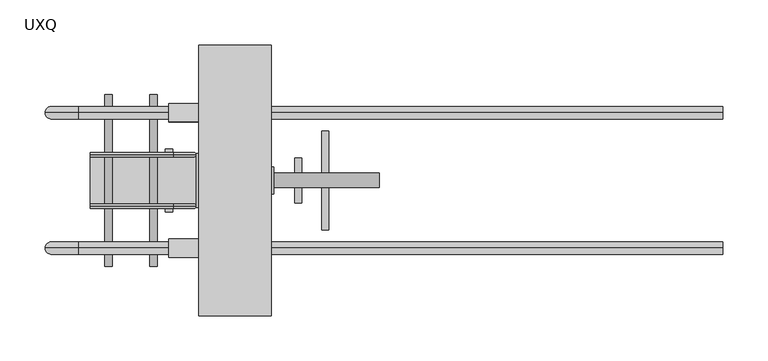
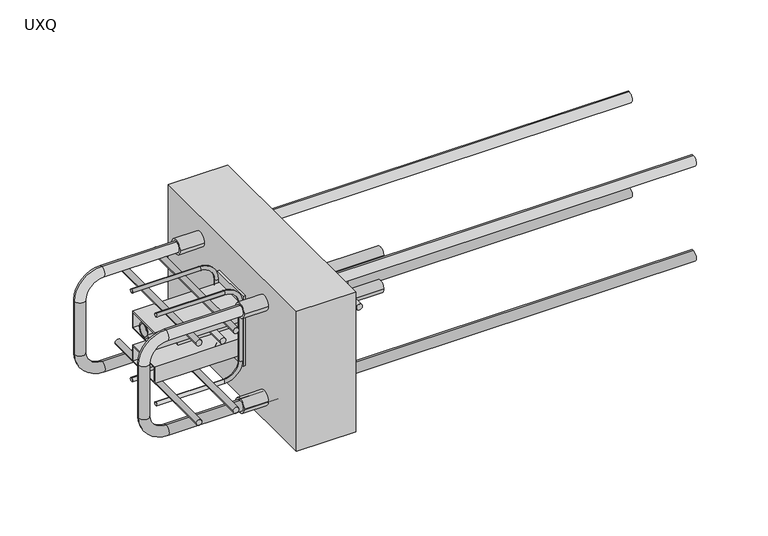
"""IFC4 building model written with IfcOpenShell, lengths in millimetres: proxy geometry, ACINOXplus_Typenreihe_UX : UXQ."""

from ifc_helpers import new_model, si_unit, point, frame, frame_2d, origin, place, context, project, spatial, polyline, circle_curve, ellipse_curve, trimmed, segment, composite_curve, outline, extrude, source, transform, mapped, element, save
from ifc_brep_helpers import plane_surface, cylinder_surface, revolved_surface, advanced_brep


def uxq_d90d2bab(model_context):
    return source(origin(), model_context, "Body", "SolidModel", [
        extrude(outline(composite_curve([segment(trimmed(circle_curve(frame_2d((-100.0, -73.0)), 4.0), [point((-100.0, -77.0))], [point((-100.0, -69.0))], False, "CARTESIAN"), True, "CONTINUOUS"), segment(trimmed(circle_curve(frame_2d((-100.0, -73.0)), 4.0), [point((-100.0, -69.0))], [point((-100.0, -77.0))], False, "CARTESIAN"), True, "CONTINUOUS")], self_intersect=False)), frame((0.0, -35.0, 0.0), z_axis=(0.0, 1.0, 0.0), x_axis=(0.0, 0.0, 1.0)), (0.0, 0.0, 1.0), 70.0),
        extrude(outline(composite_curve([segment(trimmed(circle_curve(frame_2d((-100.0, 70.0)), 4.0), [point((-100.0, 66.0))], [point((-100.0, 74.0))], False, "CARTESIAN"), True, "CONTINUOUS"), segment(trimmed(circle_curve(frame_2d((-100.0, 70.0)), 4.0), [point((-100.0, 74.0))], [point((-100.0, 66.0))], False, "CARTESIAN"), True, "CONTINUOUS")], self_intersect=False)), frame((0.0, -25.0, 0.0), z_axis=(0.0, 1.0, 0.0), x_axis=(0.0, 0.0, 1.0)), (0.0, 0.0, 1.0), 50.0),
        extrude(outline(composite_curve([segment(trimmed(circle_curve(frame_2d((-100.0, 100.0)), 4.0), [point((-100.0, 96.0))], [point((-100.0, 104.0))], False, "CARTESIAN"), True, "CONTINUOUS"), segment(trimmed(circle_curve(frame_2d((-100.0, 100.0)), 4.0), [point((-100.0, 104.0))], [point((-100.0, 96.0))], False, "CARTESIAN"), True, "CONTINUOUS")], self_intersect=False)), frame((0.0, -55.0, 0.0), z_axis=(0.0, 1.0, 0.0), x_axis=(0.0, 0.0, 1.0)), (0.0, 0.0, 1.0), 110.0),
        extrude(outline(composite_curve([segment(trimmed(circle_curve(frame_2d((0.0, -124.0)), 8.0), [point((8.0, -124.0))], [point((-8.0, -124.0))], False, "CARTESIAN"), True, "CONTINUOUS"), segment(trimmed(circle_curve(frame_2d((0.0, -124.0)), 8.0), [point((-8.0, -124.0))], [point((8.0, -124.0))], False, "CARTESIAN"), True, "CONTINUOUS")], self_intersect=False)), frame((-160.0, 0.0, 0.0), z_axis=(1.0, 0.0, 0.0), x_axis=(0.0, 1.0, 0.0)), (0.0, 0.0, 1.0), 320.0),
        extrude(outline(composite_curve([segment(trimmed(circle_curve(frame_2d((0.0, -76.0)), 8.0), [point((8.0, -76.0))], [point((-8.0, -76.0))], False, "CARTESIAN"), True, "CONTINUOUS"), segment(trimmed(circle_curve(frame_2d((0.0, -76.0)), 8.0), [point((-8.0, -76.0))], [point((8.0, -76.0))], False, "CARTESIAN"), True, "CONTINUOUS")], self_intersect=False)), frame((-160.0, 0.0, 0.0), z_axis=(1.0, 0.0, 0.0), x_axis=(0.0, 1.0, 0.0)), (0.0, 0.0, 1.0), 320.0),
        extrude(outline(polyline([(-26.0, -64.0), (26.0, -64.0), (26.0, -88.0), (-26.0, -88.0), (-26.0, -64.0)]), holes=[polyline([(-24.0, -66.0), (-24.0, -86.0), (24.0, -86.0), (24.0, -66.0), (-24.0, -66.0)])]), frame((-160.0, 0.0, 0.0), z_axis=(1.0, 0.0, 0.0), x_axis=(0.0, 1.0, 0.0)), (0.0, 0.0, 1.0), 117.0),
        extrude(outline(polyline([(-26.0, -112.0), (26.0, -112.0), (26.0, -136.0), (-26.0, -136.0), (-26.0, -112.0)]), holes=[polyline([(-24.0, -114.0), (-24.0, -134.0), (24.0, -134.0), (24.0, -114.0), (-24.0, -114.0)])]), frame((-160.0, 0.0, 0.0), z_axis=(1.0, 0.0, 0.0), x_axis=(0.0, 1.0, 0.0)), (0.0, 0.0, 1.0), 117.0),
        advanced_brep(
        [(-43.0, -30.0, -49.8262299), (-43.0, 30.0, -49.8262299), (-43.0, 30.0, -150.0), (-43.0, -30.0, -150.0), (-43.0, -10.0, -76.0), (-43.0, 10.0, -76.0), (-43.0, -10.0, -124.0), (-43.0, 10.0, -124.0), (-43.0, -8.0, -76.0), (-43.0, 8.0, -76.0), (-43.0, -8.0, -124.0), (-43.0, 8.0, -124.0), (-40.0, -30.0, -49.8262299), (-40.0, -30.0, -150.0), (-40.0, 30.0, -150.0), (-40.0, 30.0, -49.8262299), (-160.0, 10.0, -76.0), (-160.0, -10.0, -76.0), (-160.0, 8.0, -76.0), (-160.0, -8.0, -76.0), (-160.0, 10.0, -124.0), (-160.0, -10.0, -124.0), (-160.0, 8.0, -124.0), (-160.0, -8.0, -124.0)],
        [
            (0, 1),
            (1, 2),
            (2, 3),
            (3, 0),
            (4, 5, circle_curve(frame((-43.0, 0.0, -76.0), z_axis=(1.0, 0.0, 0.0), x_axis=(0.0, -1.0, 0.0)), 10.0)),
            (5, 4, circle_curve(frame((-43.0, 0.0, -76.0), z_axis=(1.0, 0.0, 0.0), x_axis=(0.0, -1.0, 0.0)), 10.0)),
            (6, 7, circle_curve(frame((-43.0, 0.0, -124.0), z_axis=(1.0, 0.0, 0.0), x_axis=(0.0, -1.0, 0.0)), 10.0)),
            (7, 6, circle_curve(frame((-43.0, 0.0, -124.0), z_axis=(1.0, 0.0, 0.0), x_axis=(0.0, -1.0, 0.0)), 10.0)),
            (8, 9, circle_curve(frame((-43.0, 0.0, -76.0), z_axis=(-1.0, 0.0, 0.0), x_axis=(0.0, -1.0, 0.0)), 8.0)),
            (9, 8, circle_curve(frame((-43.0, 0.0, -76.0), z_axis=(-1.0, 0.0, 0.0), x_axis=(0.0, -1.0, 0.0)), 8.0)),
            (10, 11, circle_curve(frame((-43.0, 0.0, -124.0), z_axis=(-1.0, 0.0, 0.0), x_axis=(0.0, -1.0, 0.0)), 8.0)),
            (11, 10, circle_curve(frame((-43.0, 0.0, -124.0), z_axis=(-1.0, 0.0, 0.0), x_axis=(0.0, -1.0, 0.0)), 8.0)),
            (12, 13),
            (13, 14),
            (14, 15),
            (15, 12),
            (0, 12),
            (15, 1),
            (14, 2),
            (13, 3),
            (16, 17, circle_curve(frame((-160.0, 0.0, -76.0), z_axis=(-1.0, 0.0, 0.0), x_axis=(0.0, -1.0, 0.0)), 10.0)),
            (17, 16, circle_curve(frame((-160.0, 0.0, -76.0), z_axis=(-1.0, 0.0, 0.0), x_axis=(0.0, -1.0, 0.0)), 10.0)),
            (18, 19, circle_curve(frame((-160.0, 0.0, -76.0), z_axis=(1.0, 0.0, 0.0), x_axis=(0.0, -1.0, 0.0)), 8.0)),
            (19, 18, circle_curve(frame((-160.0, 0.0, -76.0), z_axis=(1.0, 0.0, 0.0), x_axis=(0.0, -1.0, 0.0)), 8.0)),
            (20, 21, circle_curve(frame((-160.0, 0.0, -124.0), z_axis=(-1.0, 0.0, 0.0), x_axis=(0.0, -1.0, 0.0)), 10.0)),
            (21, 20, circle_curve(frame((-160.0, 0.0, -124.0), z_axis=(-1.0, 0.0, 0.0), x_axis=(0.0, -1.0, 0.0)), 10.0)),
            (22, 23, circle_curve(frame((-160.0, 0.0, -124.0), z_axis=(1.0, 0.0, 0.0), x_axis=(0.0, -1.0, 0.0)), 8.0)),
            (23, 22, circle_curve(frame((-160.0, 0.0, -124.0), z_axis=(1.0, 0.0, 0.0), x_axis=(0.0, -1.0, 0.0)), 8.0)),
            (18, 9),
            (8, 19),
            (22, 11),
            (10, 23),
            (16, 5),
            (4, 17),
            (20, 7),
            (6, 21),
        ],
        [
            plane_surface(frame((-43.0, 30.0, -49.8262299), z_axis=(-1.0, 0.0, 0.0), x_axis=(0.0, 1.0, 0.0))),
            plane_surface(frame((-40.0, 30.0, -49.8262299), z_axis=(1.0, 0.0, 0.0), x_axis=(0.0, -1.0, 0.0))),
            plane_surface(frame((-43.0, -30.0, -49.8262299), z_axis=(0.0, 0.0, 1.0), x_axis=(1.0, 0.0, 0.0))),
            plane_surface(frame((-43.0, 30.0, -49.8262299), z_axis=(0.0, 1.0, 0.0), x_axis=(1.0, 0.0, 0.0))),
            plane_surface(frame((-43.0, 30.0, -150.0), z_axis=(0.0, 0.0, -1.0), x_axis=(1.0, 0.0, 0.0))),
            plane_surface(frame((-43.0, -30.0, -150.0), z_axis=(0.0, -1.0, 0.0), x_axis=(1.0, 0.0, 0.0))),
            plane_surface(frame((-160.0, -8.0, -76.0), z_axis=(-1.0, 0.0, 0.0), x_axis=(0.0, 0.0, -1.0))),
            revolved_surface(polyline([(-43.0, -8.0, -76.0), (-160.0, -8.0, -76.0)]), (-43.0, 0.0, -76.0), (1.0, 0.0, 0.0)),
            revolved_surface(polyline([(-43.0, -8.0, -124.0), (-160.0, -8.0, -124.0)]), (0.0, 0.0, -124.0), (1.0, 0.0, 0.0)),
            cylinder_surface(frame((0.0, 0.0, -76.0), z_axis=(-1.0, 0.0, 0.0), x_axis=(0.0, -1.0, 0.0)), 10.0),
            cylinder_surface(frame((0.0, 0.0, -124.0), z_axis=(-1.0, 0.0, 0.0), x_axis=(0.0, -1.0, 0.0)), 10.0),
        ],
        [
            (0, [[1, 2, 3, 4], [5, 6], [7, 8]]),
            (0, [[9, 10]]),
            (0, [[11, 12]]),
            (1, [[13, 14, 15, 16]]),
            (2, [[-1, 17, -16, 18]]),
            (3, [[-2, -18, -15, 19]]),
            (4, [[-3, -19, -14, 20]]),
            (5, [[-4, -20, -13, -17]]),
            (6, [[21, 22], [23, 24]]),
            (6, [[25, 26], [27, 28]]),
            (7, [[-23, 29, -9, 30]]),
            (7, [[-24, -30, -10, -29]]),
            (8, [[-27, 31, -11, 32]]),
            (8, [[-28, -32, -12, -31]]),
            (9, [[-21, 33, -5, 34]]),
            (9, [[-22, -34, -6, -33]]),
            (10, [[-25, 35, -7, 36]]),
            (10, [[-26, -36, -8, -35]]),
        ],
    ),
        extrude(outline(composite_curve([segment(polyline([(15.0, -62.6944568), (15.0, -137.3055432)]), True, "CONTINUOUS"), segment(trimmed(circle_curve(frame_2d((0.0, -74.05999)), 65.0), [point((15.0, -137.3055432))], [point((-15.0, -137.3055432))], False, "CARTESIAN"), True, "CONTINUOUS"), segment(polyline([(-15.0, -137.3055432), (-15.0, -62.6944568)]), True, "CONTINUOUS"), segment(trimmed(circle_curve(frame_2d((0.0, -125.94001)), 65.0), [point((-15.0, -62.6944568))], [point((15.0, -62.6944568))], False, "CARTESIAN"), True, "CONTINUOUS")], self_intersect=False)), frame((40.0, 0.0, 0.0), z_axis=(1.0, 0.0, 0.0), x_axis=(0.0, 1.0, 0.0)), (0.0, 0.0, 1.0), 3.0254417),
        extrude(outline(polyline([(-115.0, 2.0), (115.0, 2.0), (115.0, -2.0), (-115.0, -2.0), (-115.0, 2.0)])), frame((0.0, 0.0, -124.0), z_axis=(0.0, 0.0, 1.0), x_axis=(1.0, 0.0, 0.0)), (0.0, 0.0, 1.0), 48.0),
        extrude(outline(composite_curve([segment(trimmed(circle_curve(frame_2d((-157.0, -90.0)), 4.0), [point((-157.0, -86.0))], [point((-157.0, -94.0))], False, "CARTESIAN"), True, "CONTINUOUS"), segment(trimmed(circle_curve(frame_2d((-157.0, -90.0)), 4.0), [point((-157.0, -94.0))], [point((-157.0, -86.0))], False, "CARTESIAN"), True, "CONTINUOUS")], self_intersect=False)), frame((0.0, -95.0, 0.0), z_axis=(0.0, 1.0, 0.0), x_axis=(0.0, 0.0, 1.0)), (0.0, 0.0, 1.0), 190.0),
        extrude(outline(composite_curve([segment(trimmed(circle_curve(frame_2d((-43.0, -90.0)), 4.0), [point((-43.0, -86.0))], [point((-43.0, -94.0))], False, "CARTESIAN"), True, "CONTINUOUS"), segment(trimmed(circle_curve(frame_2d((-43.0, -90.0)), 4.0), [point((-43.0, -94.0))], [point((-43.0, -86.0))], False, "CARTESIAN"), True, "CONTINUOUS")], self_intersect=False)), frame((0.0, -95.0, 0.0), z_axis=(0.0, 1.0, 0.0), x_axis=(0.0, 0.0, 1.0)), (0.0, 0.0, 1.0), 190.0),
        extrude(outline(composite_curve([segment(trimmed(circle_curve(frame_2d((-43.0, -140.0)), 4.0), [point((-43.0, -136.0))], [point((-43.0, -144.0))], False, "CARTESIAN"), True, "CONTINUOUS"), segment(trimmed(circle_curve(frame_2d((-43.0, -140.0)), 4.0), [point((-43.0, -144.0))], [point((-43.0, -136.0))], False, "CARTESIAN"), True, "CONTINUOUS")], self_intersect=False)), frame((0.0, -95.0, 0.0), z_axis=(0.0, 1.0, 0.0), x_axis=(0.0, 0.0, 1.0)), (0.0, 0.0, 1.0), 190.0),
        extrude(outline(composite_curve([segment(trimmed(circle_curve(frame_2d((-157.0, -140.0)), 4.0), [point((-157.0, -136.0))], [point((-157.0, -144.0))], False, "CARTESIAN"), True, "CONTINUOUS"), segment(trimmed(circle_curve(frame_2d((-157.0, -140.0)), 4.0), [point((-157.0, -144.0))], [point((-157.0, -136.0))], False, "CARTESIAN"), True, "CONTINUOUS")], self_intersect=False)), frame((0.0, -95.0, 0.0), z_axis=(0.0, 1.0, 0.0), x_axis=(0.0, 0.0, 1.0)), (0.0, 0.0, 1.0), 190.0),
        extrude(outline(polyline([(40.0, 150.0), (40.0, -150.0), (-40.0, -150.0), (-40.0, 150.0), (40.0, 150.0)])), frame((0.0, 0.0, -200.0), z_axis=(0.0, 0.0, 1.0), x_axis=(1.0, 0.0, 0.0)), (0.0, 0.0, 1.0), 200.0),
        advanced_brep(
        [(540.0, 75.0, -25.0), (540.0, 75.0, -39.0), (-173.0, 75.0, -25.0), (-173.0, 75.0, -39.0), (-196.0, 75.0, -62.0), (-210.0, 75.0, -62.0), (-210.0, 75.0, -138.0), (-196.0, 75.0, -138.0), (-173.0, 75.0, -161.0), (-173.0, 75.0, -175.0), (540.0, 75.0, -175.0), (540.0, 75.0, -161.0)],
        [
            (0, 1, circle_curve(frame((540.0, 75.0, -32.0), z_axis=(1.0, 0.0, 0.0), x_axis=(0.0, 0.0, -1.0)), 7.0)),
            (1, 0, circle_curve(frame((540.0, 75.0, -32.0), z_axis=(1.0, 0.0, 0.0), x_axis=(0.0, 0.0, -1.0)), 7.0)),
            (0, 2),
            (2, 3, circle_curve(frame((-173.0, 75.0, -32.0), z_axis=(1.0, 0.0, 0.0), x_axis=(0.0, 0.0, -1.0)), 7.0)),
            (3, 1),
            (3, 2, circle_curve(frame((-173.0, 75.0, -32.0), z_axis=(1.0, 0.0, 0.0), x_axis=(0.0, 0.0, -1.0)), 7.0)),
            (4, 3, circle_curve(frame((-173.0, 75.0, -62.0), z_axis=(0.0, 1.0, 0.0), x_axis=(0.0, 0.0, 1.0)), 23.0)),
            (2, 5, circle_curve(frame((-173.0, 75.0, -62.0), z_axis=(0.0, -1.0, 0.0), x_axis=(0.0, 0.0, 1.0)), 37.0)),
            (5, 4, circle_curve(frame((-203.0, 75.0, -62.0), z_axis=(0.0, 0.0, 1.0), x_axis=(1.0, 0.0, 0.0)), 7.0)),
            (4, 5, circle_curve(frame((-203.0, 75.0, -62.0), z_axis=(0.0, 0.0, 1.0), x_axis=(1.0, 0.0, 0.0)), 7.0)),
            (5, 6),
            (6, 7, circle_curve(frame((-203.0, 75.0, -138.0), z_axis=(0.0, 0.0, 1.0), x_axis=(1.0, 0.0, 0.0)), 7.0)),
            (7, 4),
            (7, 6, circle_curve(frame((-203.0, 75.0, -138.0), z_axis=(0.0, 0.0, 1.0), x_axis=(1.0, 0.0, 0.0)), 7.0)),
            (8, 7, circle_curve(frame((-173.0, 75.0, -138.0), z_axis=(0.0, 1.0, 0.0), x_axis=(-1.0, 0.0, 0.0)), 23.0)),
            (6, 9, circle_curve(frame((-173.0, 75.0, -138.0), z_axis=(0.0, -1.0, 0.0), x_axis=(-1.0, 0.0, 0.0)), 37.0)),
            (9, 8, circle_curve(frame((-173.0, 75.0, -168.0), z_axis=(-1.0, 0.0, 0.0), x_axis=(0.0, 0.0, 1.0)), 7.0)),
            (8, 9, circle_curve(frame((-173.0, 75.0, -168.0), z_axis=(-1.0, 0.0, 0.0), x_axis=(0.0, 0.0, 1.0)), 7.0)),
            (10, 11, circle_curve(frame((540.0, 75.0, -168.0), z_axis=(1.0, 0.0, 0.0), x_axis=(0.0, 0.0, 1.0)), 7.0)),
            (11, 10, circle_curve(frame((540.0, 75.0, -168.0), z_axis=(1.0, 0.0, 0.0), x_axis=(0.0, 0.0, 1.0)), 7.0)),
            (9, 10),
            (11, 8),
        ],
        [
            plane_surface(frame((540.0, 75.0, -32.0), z_axis=(1.0, 0.0, 0.0), x_axis=(0.0, -1.0, 0.0))),
            cylinder_surface(frame((540.0, 75.0, -32.0), z_axis=(1.0, 0.0, 0.0), x_axis=(0.0, 0.0, -1.0)), 7.0),
            revolved_surface(trimmed(ellipse_curve(frame((-173.0, 75.0, -32.0), z_axis=(1.0, 0.0, 0.0), x_axis=(0.0, 0.0, -1.0)), 7.0, 7.0), [point((-173.0, 75.0, -25.0))], [point((-173.0, 75.0, -39.0))], True, "CARTESIAN"), (-173.0, 75.0, -62.0), (0.0, -1.0, 0.0)),
            revolved_surface(trimmed(ellipse_curve(frame((-173.0, 75.0, -32.0), z_axis=(1.0, 0.0, 0.0), x_axis=(0.0, 0.0, -1.0)), 7.0, 7.0), [point((-173.0, 75.0, -39.0))], [point((-173.0, 75.0, -25.0))], True, "CARTESIAN"), (-173.0, 75.0, -62.0), (0.0, -1.0, 0.0)),
            cylinder_surface(frame((-203.0, 75.0, -62.0), z_axis=(0.0, 0.0, 1.0), x_axis=(1.0, 0.0, 0.0)), 7.0),
            revolved_surface(trimmed(ellipse_curve(frame((-203.0, 75.0, -138.0), z_axis=(0.0, 0.0, 1.0), x_axis=(1.0, 0.0, 0.0)), 7.0, 7.0), [point((-210.0, 75.0, -138.0))], [point((-196.0, 75.0, -138.0))], True, "CARTESIAN"), (-173.0, 75.0, -138.0), (0.0, -1.0, 0.0)),
            revolved_surface(trimmed(ellipse_curve(frame((-203.0, 75.0, -138.0), z_axis=(0.0, 0.0, 1.0), x_axis=(1.0, 0.0, 0.0)), 7.0, 7.0), [point((-196.0, 75.0, -138.0))], [point((-210.0, 75.0, -138.0))], True, "CARTESIAN"), (-173.0, 75.0, -138.0), (0.0, -1.0, 0.0)),
            plane_surface(frame((540.0, 75.0, -168.0), z_axis=(1.0, 0.0, 0.0), x_axis=(0.0, -1.0, 0.0))),
            cylinder_surface(frame((-173.0, 75.0, -168.0), z_axis=(-1.0, 0.0, 0.0), x_axis=(0.0, 0.0, 1.0)), 7.0),
        ],
        [
            (0, [[1, 2]]),
            (1, [[-1, 3, 4, 5]]),
            (1, [[-2, -5, 6, -3]]),
            (2, [[7, -4, 8, 9]]),
            (3, [[-8, -6, -7, 10]]),
            (4, [[-9, 11, 12, 13]]),
            (4, [[-10, -13, 14, -11]]),
            (5, [[15, -12, 16, 17]]),
            (6, [[-16, -14, -15, 18]]),
            (7, [[19, 20]]),
            (8, [[-17, 21, -20, 22]]),
            (8, [[-18, -22, -19, -21]]),
        ],
    ),
        advanced_brep(
        [(540.0, -75.0, -25.0), (540.0, -75.0, -39.0), (-173.0, -75.0, -25.0), (-173.0, -75.0, -39.0), (-196.0, -75.0, -62.0), (-210.0, -75.0, -62.0), (-210.0, -75.0, -138.0), (-196.0, -75.0, -138.0), (-173.0, -75.0, -161.0), (-173.0, -75.0, -175.0), (540.0, -75.0, -175.0), (540.0, -75.0, -161.0)],
        [
            (0, 1, circle_curve(frame((540.0, -75.0, -32.0), z_axis=(1.0, 0.0, 0.0), x_axis=(0.0, 0.0, -1.0)), 7.0)),
            (1, 0, circle_curve(frame((540.0, -75.0, -32.0), z_axis=(1.0, 0.0, 0.0), x_axis=(0.0, 0.0, -1.0)), 7.0)),
            (0, 2),
            (2, 3, circle_curve(frame((-173.0, -75.0, -32.0), z_axis=(1.0, 0.0, 0.0), x_axis=(0.0, 0.0, -1.0)), 7.0)),
            (3, 1),
            (3, 2, circle_curve(frame((-173.0, -75.0, -32.0), z_axis=(1.0, 0.0, 0.0), x_axis=(0.0, 0.0, -1.0)), 7.0)),
            (4, 3, circle_curve(frame((-173.0, -75.0, -62.0), z_axis=(0.0, 1.0, 0.0), x_axis=(0.0, 0.0, 1.0)), 23.0)),
            (2, 5, circle_curve(frame((-173.0, -75.0, -62.0), z_axis=(0.0, -1.0, 0.0), x_axis=(0.0, 0.0, 1.0)), 37.0)),
            (5, 4, circle_curve(frame((-203.0, -75.0, -62.0), z_axis=(0.0, 0.0, 1.0), x_axis=(1.0, 0.0, 0.0)), 7.0)),
            (4, 5, circle_curve(frame((-203.0, -75.0, -62.0), z_axis=(0.0, 0.0, 1.0), x_axis=(1.0, 0.0, 0.0)), 7.0)),
            (5, 6),
            (6, 7, circle_curve(frame((-203.0, -75.0, -138.0), z_axis=(0.0, 0.0, 1.0), x_axis=(1.0, 0.0, 0.0)), 7.0)),
            (7, 4),
            (7, 6, circle_curve(frame((-203.0, -75.0, -138.0), z_axis=(0.0, 0.0, 1.0), x_axis=(1.0, 0.0, 0.0)), 7.0)),
            (8, 7, circle_curve(frame((-173.0, -75.0, -138.0), z_axis=(0.0, 1.0, 0.0), x_axis=(-1.0, 0.0, 0.0)), 23.0)),
            (6, 9, circle_curve(frame((-173.0, -75.0, -138.0), z_axis=(0.0, -1.0, 0.0), x_axis=(-1.0, 0.0, 0.0)), 37.0)),
            (9, 8, circle_curve(frame((-173.0, -75.0, -168.0), z_axis=(-1.0, 0.0, 0.0), x_axis=(0.0, 0.0, 1.0)), 7.0)),
            (8, 9, circle_curve(frame((-173.0, -75.0, -168.0), z_axis=(-1.0, 0.0, 0.0), x_axis=(0.0, 0.0, 1.0)), 7.0)),
            (10, 11, circle_curve(frame((540.0, -75.0, -168.0), z_axis=(1.0, 0.0, 0.0), x_axis=(0.0, 0.0, 1.0)), 7.0)),
            (11, 10, circle_curve(frame((540.0, -75.0, -168.0), z_axis=(1.0, 0.0, 0.0), x_axis=(0.0, 0.0, 1.0)), 7.0)),
            (9, 10),
            (11, 8),
        ],
        [
            plane_surface(frame((540.0, -75.0, -32.0), z_axis=(1.0, 0.0, 0.0), x_axis=(0.0, -1.0, 0.0))),
            cylinder_surface(frame((540.0, -75.0, -32.0), z_axis=(1.0, 0.0, 0.0), x_axis=(0.0, 0.0, -1.0)), 7.0),
            revolved_surface(trimmed(ellipse_curve(frame((-173.0, -75.0, -32.0), z_axis=(1.0, 0.0, 0.0), x_axis=(0.0, 0.0, -1.0)), 7.0, 7.0), [point((-173.0, -75.0, -25.0))], [point((-173.0, -75.0, -39.0))], True, "CARTESIAN"), (-173.0, -75.0, -62.0), (0.0, -1.0, 0.0)),
            revolved_surface(trimmed(ellipse_curve(frame((-173.0, -75.0, -32.0), z_axis=(1.0, 0.0, 0.0), x_axis=(0.0, 0.0, -1.0)), 7.0, 7.0), [point((-173.0, -75.0, -39.0))], [point((-173.0, -75.0, -25.0))], True, "CARTESIAN"), (-173.0, -75.0, -62.0), (0.0, -1.0, 0.0)),
            cylinder_surface(frame((-203.0, -75.0, -62.0), z_axis=(0.0, 0.0, 1.0), x_axis=(1.0, 0.0, 0.0)), 7.0),
            revolved_surface(trimmed(ellipse_curve(frame((-203.0, -75.0, -138.0), z_axis=(0.0, 0.0, 1.0), x_axis=(1.0, 0.0, 0.0)), 7.0, 7.0), [point((-210.0, -75.0, -138.0))], [point((-196.0, -75.0, -138.0))], True, "CARTESIAN"), (-173.0, -75.0, -138.0), (0.0, -1.0, 0.0)),
            revolved_surface(trimmed(ellipse_curve(frame((-203.0, -75.0, -138.0), z_axis=(0.0, 0.0, 1.0), x_axis=(1.0, 0.0, 0.0)), 7.0, 7.0), [point((-196.0, -75.0, -138.0))], [point((-210.0, -75.0, -138.0))], True, "CARTESIAN"), (-173.0, -75.0, -138.0), (0.0, -1.0, 0.0)),
            plane_surface(frame((540.0, -75.0, -168.0), z_axis=(1.0, 0.0, 0.0), x_axis=(0.0, -1.0, 0.0))),
            cylinder_surface(frame((-173.0, -75.0, -168.0), z_axis=(-1.0, 0.0, 0.0), x_axis=(0.0, 0.0, 1.0)), 7.0),
        ],
        [
            (0, [[1, 2]]),
            (1, [[-1, 3, 4, 5]]),
            (1, [[-2, -5, 6, -3]]),
            (2, [[7, -4, 8, 9]]),
            (3, [[-8, -6, -7, 10]]),
            (4, [[-9, 11, 12, 13]]),
            (4, [[-10, -13, 14, -11]]),
            (5, [[15, -12, 16, 17]]),
            (6, [[-16, -14, -15, 18]]),
            (7, [[19, 20]]),
            (8, [[-17, 21, -20, 22]]),
            (8, [[-18, -22, -19, -21]]),
        ],
    ),
        extrude(outline(composite_curve([segment(trimmed(circle_curve(frame_2d((75.0, -168.0)), 10.0), [point((65.0, -168.0))], [point((85.0, -168.0))], False, "CARTESIAN"), True, "CONTINUOUS"), segment(trimmed(circle_curve(frame_2d((75.0, -168.0)), 10.0), [point((85.0, -168.0))], [point((65.0, -168.0))], False, "CARTESIAN"), True, "CONTINUOUS")], self_intersect=False), holes=[composite_curve([segment(trimmed(circle_curve(frame_2d((75.0, -168.0)), 7.0), [point((68.0, -168.0))], [point((82.0, -168.0))], True, "CARTESIAN"), True, "CONTINUOUS"), segment(trimmed(circle_curve(frame_2d((75.0, -168.0)), 7.0), [point((82.0, -168.0))], [point((68.0, -168.0))], True, "CARTESIAN"), True, "CONTINUOUS")], self_intersect=False)]), frame((-73.0, 0.0, 0.0), z_axis=(1.0, 0.0, 0.0), x_axis=(0.0, 1.0, 0.0)), (0.0, 0.0, 1.0), 33.0),
        extrude(outline(composite_curve([segment(trimmed(circle_curve(frame_2d((-75.0, -168.0)), 10.0), [point((-85.0, -168.0))], [point((-65.0, -168.0))], False, "CARTESIAN"), True, "CONTINUOUS"), segment(trimmed(circle_curve(frame_2d((-75.0, -168.0)), 10.0), [point((-65.0, -168.0))], [point((-85.0, -168.0))], False, "CARTESIAN"), True, "CONTINUOUS")], self_intersect=False), holes=[composite_curve([segment(trimmed(circle_curve(frame_2d((-75.0, -168.0)), 7.0), [point((-82.0, -168.0))], [point((-68.0, -168.0))], True, "CARTESIAN"), True, "CONTINUOUS"), segment(trimmed(circle_curve(frame_2d((-75.0, -168.0)), 7.0), [point((-68.0, -168.0))], [point((-82.0, -168.0))], True, "CARTESIAN"), True, "CONTINUOUS")], self_intersect=False)]), frame((-73.0, 0.0, 0.0), z_axis=(1.0, 0.0, 0.0), x_axis=(0.0, 1.0, 0.0)), (0.0, 0.0, 1.0), 33.0),
        extrude(outline(composite_curve([segment(trimmed(circle_curve(frame_2d((-75.0, -32.0)), 10.0), [point((-85.0, -32.0))], [point((-65.0, -32.0))], False, "CARTESIAN"), True, "CONTINUOUS"), segment(trimmed(circle_curve(frame_2d((-75.0, -32.0)), 10.0), [point((-65.0, -32.0))], [point((-85.0, -32.0))], False, "CARTESIAN"), True, "CONTINUOUS")], self_intersect=False), holes=[composite_curve([segment(trimmed(circle_curve(frame_2d((-75.0, -32.0)), 7.0), [point((-82.0, -32.0))], [point((-68.0, -32.0))], True, "CARTESIAN"), True, "CONTINUOUS"), segment(trimmed(circle_curve(frame_2d((-75.0, -32.0)), 7.0), [point((-68.0, -32.0))], [point((-82.0, -32.0))], True, "CARTESIAN"), True, "CONTINUOUS")], self_intersect=False)]), frame((-73.0, 0.0, 0.0), z_axis=(1.0, 0.0, 0.0), x_axis=(0.0, 1.0, 0.0)), (0.0, 0.0, 1.0), 33.0),
        extrude(outline(composite_curve([segment(trimmed(circle_curve(frame_2d((75.0, -32.0)), 10.0), [point((65.0, -32.0))], [point((85.0, -32.0))], False, "CARTESIAN"), True, "CONTINUOUS"), segment(trimmed(circle_curve(frame_2d((75.0, -32.0)), 10.0), [point((85.0, -32.0))], [point((65.0, -32.0))], False, "CARTESIAN"), True, "CONTINUOUS")], self_intersect=False), holes=[composite_curve([segment(trimmed(circle_curve(frame_2d((75.0, -32.0)), 7.0), [point((68.0, -32.0))], [point((82.0, -32.0))], True, "CARTESIAN"), True, "CONTINUOUS"), segment(trimmed(circle_curve(frame_2d((75.0, -32.0)), 7.0), [point((82.0, -32.0))], [point((68.0, -32.0))], True, "CARTESIAN"), True, "CONTINUOUS")], self_intersect=False)]), frame((-73.0, 0.0, 0.0), z_axis=(1.0, 0.0, 0.0), x_axis=(0.0, 1.0, 0.0)), (0.0, 0.0, 1.0), 33.0),
        advanced_brep(
        [(-160.0, -28.5, -34.0), (-160.0, -28.5, -39.0), (-160.0, -28.5, -166.0), (-160.0, -28.5, -161.0), (-68.0, -28.5, -34.0), (-68.0, -28.5, -39.0), (-48.0, -28.5, -59.0), (-43.0, -28.5, -59.0), (-43.0, -28.5, -141.0), (-48.0, -28.5, -141.0), (-68.0, -28.5, -161.0), (-68.0, -28.5, -166.0)],
        [
            (0, 1, circle_curve(frame((-160.0, -28.5, -36.5), z_axis=(-1.0, 0.0, 0.0), x_axis=(0.0, 0.0, -1.0)), 2.5)),
            (1, 0, circle_curve(frame((-160.0, -28.5, -36.5), z_axis=(-1.0, 0.0, 0.0), x_axis=(0.0, 0.0, -1.0)), 2.5)),
            (2, 3, circle_curve(frame((-160.0, -28.5, -163.5), z_axis=(-1.0, 0.0, 0.0), x_axis=(0.0, 0.0, 1.0)), 2.5)),
            (3, 2, circle_curve(frame((-160.0, -28.5, -163.5), z_axis=(-1.0, 0.0, 0.0), x_axis=(0.0, 0.0, 1.0)), 2.5)),
            (0, 4),
            (4, 5, circle_curve(frame((-68.0, -28.5, -36.5), z_axis=(-1.0, 0.0, 0.0), x_axis=(0.0, 0.0, -1.0)), 2.5)),
            (5, 1),
            (5, 4, circle_curve(frame((-68.0, -28.5, -36.5), z_axis=(-1.0, 0.0, 0.0), x_axis=(0.0, 0.0, -1.0)), 2.5)),
            (6, 5, circle_curve(frame((-68.0, -28.5, -59.0), z_axis=(0.0, -1.0, 0.0), x_axis=(0.0, 0.0, 1.0)), 20.0)),
            (4, 7, circle_curve(frame((-68.0, -28.5, -59.0), z_axis=(0.0, 1.0, 0.0), x_axis=(0.0, 0.0, 1.0)), 25.0)),
            (7, 6, circle_curve(frame((-45.5, -28.5, -59.0), z_axis=(0.0, 0.0, 1.0), x_axis=(-1.0, 0.0, 0.0)), 2.5)),
            (6, 7, circle_curve(frame((-45.5, -28.5, -59.0), z_axis=(0.0, 0.0, 1.0), x_axis=(-1.0, 0.0, 0.0)), 2.5)),
            (7, 8),
            (8, 9, circle_curve(frame((-45.5, -28.5, -141.0), z_axis=(0.0, 0.0, 1.0), x_axis=(-1.0, 0.0, 0.0)), 2.5)),
            (9, 6),
            (9, 8, circle_curve(frame((-45.5, -28.5, -141.0), z_axis=(0.0, 0.0, 1.0), x_axis=(-1.0, 0.0, 0.0)), 2.5)),
            (10, 9, circle_curve(frame((-68.0, -28.5, -141.0), z_axis=(0.0, -1.0, 0.0), x_axis=(1.0, 0.0, 0.0)), 20.0)),
            (8, 11, circle_curve(frame((-68.0, -28.5, -141.0), z_axis=(0.0, 1.0, 0.0), x_axis=(1.0, 0.0, 0.0)), 25.0)),
            (11, 10, circle_curve(frame((-68.0, -28.5, -163.5), z_axis=(1.0, 0.0, 0.0), x_axis=(0.0, 0.0, 1.0)), 2.5)),
            (10, 11, circle_curve(frame((-68.0, -28.5, -163.5), z_axis=(1.0, 0.0, 0.0), x_axis=(0.0, 0.0, 1.0)), 2.5)),
            (11, 2),
            (3, 10),
        ],
        [
            plane_surface(frame((-160.0, -28.5, -39.0), z_axis=(-1.0, 0.0, 0.0), x_axis=(0.0, 1.0, 0.0))),
            plane_surface(frame((-160.0, -28.5, -161.0), z_axis=(-1.0, 0.0, 0.0), x_axis=(0.0, 1.0, 0.0))),
            cylinder_surface(frame((-160.0, -28.5, -36.5), z_axis=(-1.0, 0.0, 0.0), x_axis=(0.0, 0.0, -1.0)), 2.5),
            revolved_surface(trimmed(ellipse_curve(frame((-68.0, -28.5, -36.5), z_axis=(-1.0, 0.0, 0.0), x_axis=(0.0, 0.0, -1.0)), 2.5, 2.5), [point((-68.0, -28.5, -34.0))], [point((-68.0, -28.5, -39.0))], True, "CARTESIAN"), (-68.0, -28.5, -59.0), (0.0, 1.0, 0.0)),
            revolved_surface(trimmed(ellipse_curve(frame((-68.0, -28.5, -36.5), z_axis=(-1.0, 0.0, 0.0), x_axis=(0.0, 0.0, -1.0)), 2.5, 2.5), [point((-68.0, -28.5, -39.0))], [point((-68.0, -28.5, -34.0))], True, "CARTESIAN"), (-68.0, -28.5, -59.0), (0.0, 1.0, 0.0)),
            cylinder_surface(frame((-45.5, -28.5, -59.0), z_axis=(0.0, 0.0, 1.0), x_axis=(-1.0, 0.0, 0.0)), 2.5),
            revolved_surface(trimmed(ellipse_curve(frame((-45.5, -28.5, -141.0), z_axis=(0.0, 0.0, 1.0), x_axis=(-1.0, 0.0, 0.0)), 2.5, 2.5), [point((-43.0, -28.5, -141.0))], [point((-48.0, -28.5, -141.0))], True, "CARTESIAN"), (-68.0, -28.5, -141.0), (0.0, 1.0, 0.0)),
            revolved_surface(trimmed(ellipse_curve(frame((-45.5, -28.5, -141.0), z_axis=(0.0, 0.0, 1.0), x_axis=(-1.0, 0.0, 0.0)), 2.5, 2.5), [point((-48.0, -28.5, -141.0))], [point((-43.0, -28.5, -141.0))], True, "CARTESIAN"), (-68.0, -28.5, -141.0), (0.0, 1.0, 0.0)),
            cylinder_surface(frame((-68.0, -28.5, -163.5), z_axis=(1.0, 0.0, 0.0), x_axis=(0.0, 0.0, 1.0)), 2.5),
        ],
        [
            (0, [[1, 2]]),
            (1, [[3, 4]]),
            (2, [[-1, 5, 6, 7]]),
            (2, [[-2, -7, 8, -5]]),
            (3, [[9, -6, 10, 11]]),
            (4, [[-10, -8, -9, 12]]),
            (5, [[-11, 13, 14, 15]]),
            (5, [[-12, -15, 16, -13]]),
            (6, [[17, -14, 18, 19]]),
            (7, [[-18, -16, -17, 20]]),
            (8, [[-19, 21, -4, 22]]),
            (8, [[-20, -22, -3, -21]]),
        ],
    ),
        advanced_brep(
        [(-160.0, 28.5, -34.0), (-160.0, 28.5, -39.0), (-68.0, 28.5, -34.0), (-68.0, 28.5, -39.0), (-48.0, 28.5, -59.0), (-43.0, 28.5, -59.0), (-43.0, 28.5, -141.0), (-48.0, 28.5, -141.0), (-68.0, 28.5, -161.0), (-68.0, 28.5, -166.0), (-160.0, 28.5, -166.0), (-160.0, 28.5, -161.0)],
        [
            (0, 1, circle_curve(frame((-160.0, 28.5, -36.5), z_axis=(-1.0, 0.0, 0.0), x_axis=(0.0, 0.0, -1.0)), 2.5)),
            (1, 0, circle_curve(frame((-160.0, 28.5, -36.5), z_axis=(-1.0, 0.0, 0.0), x_axis=(0.0, 0.0, -1.0)), 2.5)),
            (0, 2),
            (2, 3, circle_curve(frame((-68.0, 28.5, -36.5), z_axis=(-1.0, 0.0, 0.0), x_axis=(0.0, 0.0, -1.0)), 2.5)),
            (3, 1),
            (3, 2, circle_curve(frame((-68.0, 28.5, -36.5), z_axis=(-1.0, 0.0, 0.0), x_axis=(0.0, 0.0, -1.0)), 2.5)),
            (4, 3, circle_curve(frame((-68.0, 28.5, -59.0), z_axis=(0.0, -1.0, 0.0), x_axis=(0.0, 0.0, 1.0)), 20.0)),
            (2, 5, circle_curve(frame((-68.0, 28.5, -59.0), z_axis=(0.0, 1.0, 0.0), x_axis=(0.0, 0.0, 1.0)), 25.0)),
            (5, 4, circle_curve(frame((-45.5, 28.5, -59.0), z_axis=(0.0, 0.0, 1.0), x_axis=(-1.0, 0.0, 0.0)), 2.5)),
            (4, 5, circle_curve(frame((-45.5, 28.5, -59.0), z_axis=(0.0, 0.0, 1.0), x_axis=(-1.0, 0.0, 0.0)), 2.5)),
            (5, 6),
            (6, 7, circle_curve(frame((-45.5, 28.5, -141.0), z_axis=(0.0, 0.0, 1.0), x_axis=(-1.0, 0.0, 0.0)), 2.5)),
            (7, 4),
            (7, 6, circle_curve(frame((-45.5, 28.5, -141.0), z_axis=(0.0, 0.0, 1.0), x_axis=(-1.0, 0.0, 0.0)), 2.5)),
            (8, 7, circle_curve(frame((-68.0, 28.5, -141.0), z_axis=(0.0, -1.0, 0.0), x_axis=(1.0, 0.0, 0.0)), 20.0)),
            (6, 9, circle_curve(frame((-68.0, 28.5, -141.0), z_axis=(0.0, 1.0, 0.0), x_axis=(1.0, 0.0, 0.0)), 25.0)),
            (9, 8, circle_curve(frame((-68.0, 28.5, -163.5), z_axis=(1.0, 0.0, 0.0), x_axis=(0.0, 0.0, 1.0)), 2.5)),
            (8, 9, circle_curve(frame((-68.0, 28.5, -163.5), z_axis=(1.0, 0.0, 0.0), x_axis=(0.0, 0.0, 1.0)), 2.5)),
            (10, 11, circle_curve(frame((-160.0, 28.5, -163.5), z_axis=(-1.0, 0.0, 0.0), x_axis=(0.0, 0.0, 1.0)), 2.5)),
            (11, 10, circle_curve(frame((-160.0, 28.5, -163.5), z_axis=(-1.0, 0.0, 0.0), x_axis=(0.0, 0.0, 1.0)), 2.5)),
            (9, 10),
            (11, 8),
        ],
        [
            plane_surface(frame((-160.0, 28.5, -39.0), z_axis=(-1.0, 0.0, 0.0), x_axis=(0.0, 1.0, 0.0))),
            cylinder_surface(frame((-160.0, 28.5, -36.5), z_axis=(-1.0, 0.0, 0.0), x_axis=(0.0, 0.0, -1.0)), 2.5),
            revolved_surface(trimmed(ellipse_curve(frame((-68.0, 28.5, -36.5), z_axis=(-1.0, 0.0, 0.0), x_axis=(0.0, 0.0, -1.0)), 2.5, 2.5), [point((-68.0, 28.5, -34.0))], [point((-68.0, 28.5, -39.0))], True, "CARTESIAN"), (-68.0, 28.5, -59.0), (0.0, 1.0, 0.0)),
            revolved_surface(trimmed(ellipse_curve(frame((-68.0, 28.5, -36.5), z_axis=(-1.0, 0.0, 0.0), x_axis=(0.0, 0.0, -1.0)), 2.5, 2.5), [point((-68.0, 28.5, -39.0))], [point((-68.0, 28.5, -34.0))], True, "CARTESIAN"), (-68.0, 28.5, -59.0), (0.0, 1.0, 0.0)),
            cylinder_surface(frame((-45.5, 28.5, -59.0), z_axis=(0.0, 0.0, 1.0), x_axis=(-1.0, 0.0, 0.0)), 2.5),
            revolved_surface(trimmed(ellipse_curve(frame((-45.5, 28.5, -141.0), z_axis=(0.0, 0.0, 1.0), x_axis=(-1.0, 0.0, 0.0)), 2.5, 2.5), [point((-43.0, 28.5, -141.0))], [point((-48.0, 28.5, -141.0))], True, "CARTESIAN"), (-68.0, 28.5, -141.0), (0.0, 1.0, 0.0)),
            revolved_surface(trimmed(ellipse_curve(frame((-45.5, 28.5, -141.0), z_axis=(0.0, 0.0, 1.0), x_axis=(-1.0, 0.0, 0.0)), 2.5, 2.5), [point((-48.0, 28.5, -141.0))], [point((-43.0, 28.5, -141.0))], True, "CARTESIAN"), (-68.0, 28.5, -141.0), (0.0, 1.0, 0.0)),
            plane_surface(frame((-160.0, 28.5, -161.0), z_axis=(-1.0, 0.0, 0.0), x_axis=(0.0, 1.0, 0.0))),
            cylinder_surface(frame((-68.0, 28.5, -163.5), z_axis=(1.0, 0.0, 0.0), x_axis=(0.0, 0.0, 1.0)), 2.5),
        ],
        [
            (0, [[1, 2]]),
            (1, [[-1, 3, 4, 5]]),
            (1, [[-2, -5, 6, -3]]),
            (2, [[7, -4, 8, 9]]),
            (3, [[-8, -6, -7, 10]]),
            (4, [[-9, 11, 12, 13]]),
            (4, [[-10, -13, 14, -11]]),
            (5, [[15, -12, 16, 17]]),
            (6, [[-16, -14, -15, 18]]),
            (7, [[19, 20]]),
            (8, [[-17, 21, -20, 22]]),
            (8, [[-18, -22, -19, -21]]),
        ],
    ),
    ])


if __name__ == "__main__":
    model = new_model("IFC4")
    model_context = context("Model", 3, world=origin())
    ifc_project = project(units=[si_unit("LENGTHUNIT", "METRE", prefix="MILLI")], contexts=[model_context])
    site = spatial("IfcSite", under=ifc_project)
    building = spatial("IfcBuilding", under=site)
    placement = place(None, origin())
    uxq_shape = uxq_d90d2bab(model_context)
    element("IfcBuildingElementProxy", 1, Name="ACINOXplus_Typenreihe_UX : UXQ", ObjectType="ACINOXplus_Typenreihe_UX : UXQ", at=placement, inside=building, context=model_context, shape_type="MappedRepresentation", body=[
        mapped(uxq_shape, transform((0.0, 0.0, 0.0), x_axis=(1.0, 0.0, 0.0), y_axis=(0.0, 1.0, 0.0), z_axis=(0.0, 0.0, 1.0))),
    ])
    save(model, "model.ifc")
